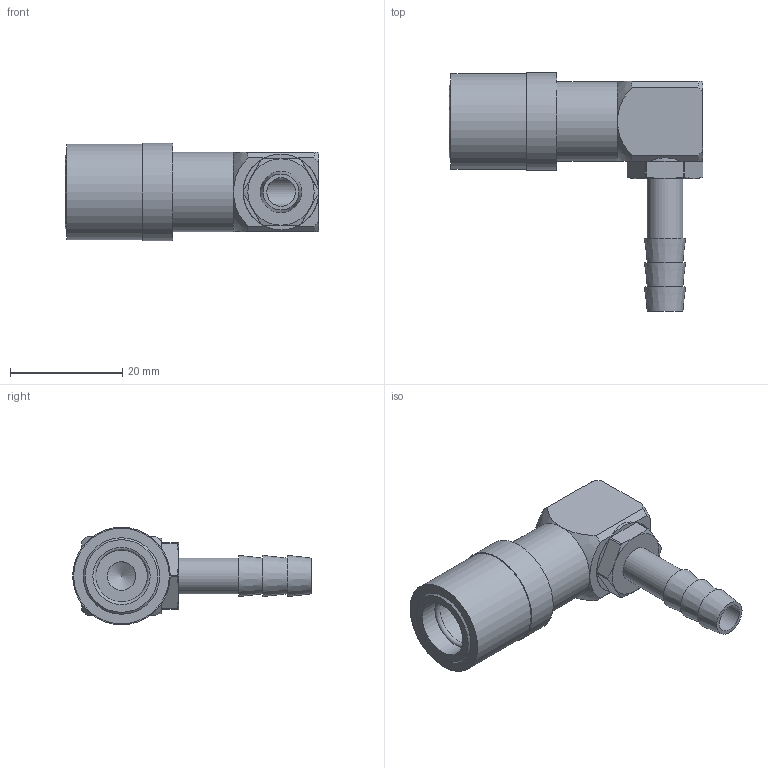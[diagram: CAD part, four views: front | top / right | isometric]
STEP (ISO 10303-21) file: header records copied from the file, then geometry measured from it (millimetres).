
FILE_DESCRIPTION(/* description */ ('STEP AP214'),/* implementation_level */ '2;1');
FILE_NAME(/* name */ 'JS-214-V',/* time_stamp */ '2024-12-19T08:41:05+01:00',/* author */ ('License CC BY-ND 4.0'),/* organization */ ('CADENAS'),/* preprocessor_version */ 'ST-DEVELOPER v19.3',/* originating_system */ 'PARTsolutions',/* authorisation */ ' ');
FILE_SCHEMA (('AUTOMOTIVE_DESIGN {1 0 10303 214 3 1 1}'));
Length unit declared in the file: inch
Products named in the file (1): JS-214-V
Bounding box: 45.2 x 42.46 x 17.36 mm (x, y, z)
Volume: 8153.8 mm3; surface area: 4821.6 mm2
Topology: 1 solids, 1 shells, 61 faces, 144 edges, 93 vertices
Faces by surface type: plane 32, cone 11, cylinder 9, sphere 8, torus 1
Full cylindrical faces by diameter (mm): 5.08 x2, 6.35 x1, 10.211 x2, 13.485 x1, 14.224 x1, 17.018 x1, 17.358 x1
Entity records: 1718 total; most frequent: CARTESIAN_POINT 317, DIRECTION 312, ORIENTED_EDGE 248, AXIS2_PLACEMENT_3D 140, EDGE_CURVE 124, VERTEX_POINT 89, FACE_BOUND 87, EDGE_LOOP 86
